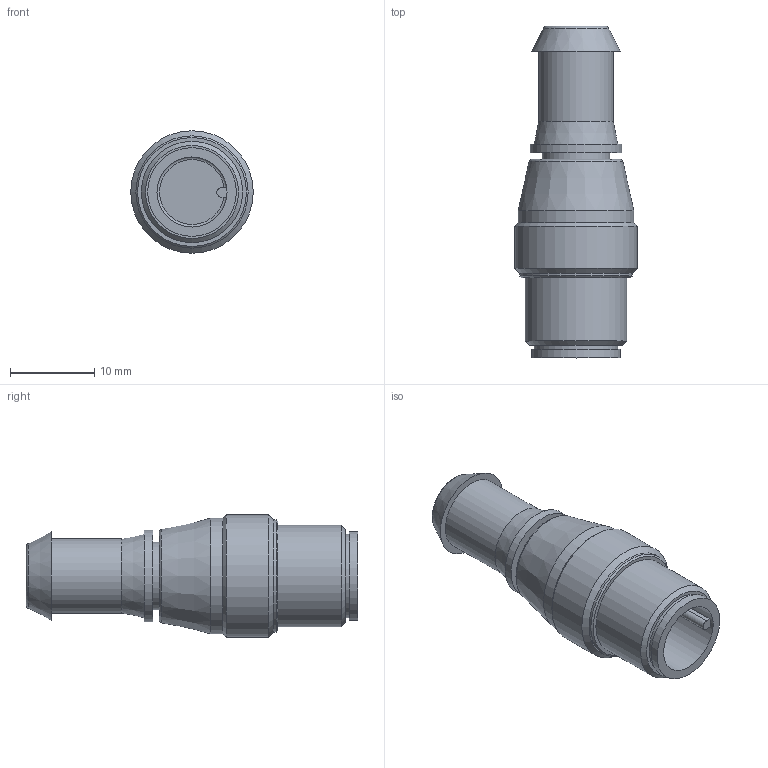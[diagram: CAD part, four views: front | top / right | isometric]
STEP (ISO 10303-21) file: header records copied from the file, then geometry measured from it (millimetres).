
FILE_DESCRIPTION (( 'STEP AP203' ), '1' );
FILE_NAME ('RS-Housing.step', '2020-03-27T14:16:27', ( '' ), ( '' ), 'SwSTEP 2.0', 'SolidWorks 2017', '' );
FILE_SCHEMA (( 'CONFIG_CONTROL_DESIGN' ));
Length unit declared in the file: millimetre
Products named in the file (1): RS-Housing
Bounding box: 14.5 x 39.3 x 14.5 mm (x, y, z)
Volume: 3553.9 mm3; surface area: 2000.8 mm2
Topology: 1 solids, 1 shells, 35 faces, 76 edges, 47 vertices
Faces by surface type: cone 12, cylinder 11, plane 9, torus 3
Full cylindrical faces by diameter (mm): 8 x1, 8.3 x1, 8.8 x1, 9.9 x1, 10.5 x1, 10.8 x1, 12 x1, 13.288 x1, 13.7 x1, 14.5 x1
Entity records: 837 total; most frequent: DIRECTION 146, CARTESIAN_POINT 127, ORIENTED_EDGE 86, AXIS2_PLACEMENT_3D 69, EDGE_LOOP 63, FACE_OUTER_BOUND 47, EDGE_CURVE 43, VERTEX_POINT 38
